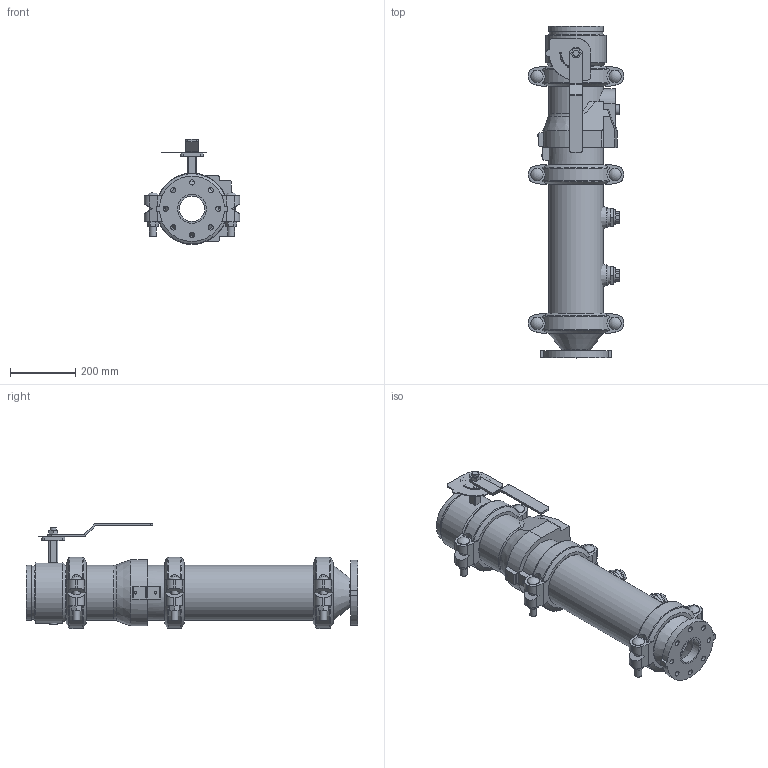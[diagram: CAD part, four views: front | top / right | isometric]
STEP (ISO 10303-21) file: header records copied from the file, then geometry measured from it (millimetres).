
FILE_DESCRIPTION(/* description */ ('VIC DVI PUMP DROP VERT S/390 (OGSxFLG)','CAx-IF Rec.Pracs.---Representation and Presentation of Product Manufacturing Information (PMI)---4.0---2014-10-13'),/* implementation_level */ '2;1');
FILE_NAME(/* name */ 'C:\Users\Vjadhav\AppData\Roaming\Autodesk\ApplicationPlugins\Back Up\Victaulic_IPS_Vertical DVI_PN10_Series 390 (OGSxFLG)\Victaulic_IPS_Vertical DVI_PN10_Series 390 (OGSxFLG)_06.0x03.0 (150x80).stp',/* time_stamp */ '2020-11-09T17:51:10+05:00',/* author */ ('Vjadhav'),/* organization */ ('Victaulic'),/* preprocessor_version */ 'ST-DEVELOPER v17.2',/* originating_system */ 'Autodesk Inventor 2019',/* authorisation */ '');
FILE_SCHEMA (('AP242_MANAGED_MODEL_BASED_3D_ENGINEERING_MIM_LF { 1 0 10303 442 1 1 4 }'));
Length unit declared in the file: inch
Products named in the file (8): 390-06.0x03.0; 741-03.0; 050-06.0x03.0; Pipe-06.0; 177N-06.0; 761-06.0; 716-06.0; 923-04.0x0.75
Assembly tree (10 placements, depth 2):
  390-06.0x03.0
    741-03.0
    050-06.0x03.0
    177N-06.0  x3
    Pipe-06.0
    761-06.0
    716-06.0
    923-04.0x0.75  x2
Bounding box: 292.61 x 1019.05 x 322.45 mm (x, y, z)
Volume: 10140083.7 mm3; surface area: 1773820.4 mm2
Topology: 10 solids, 11 shells, 611 faces, 1611 edges, 1076 vertices
Faces by surface type: plane 358, cylinder 208, cone 20, torus 17, sphere 6, bspline 2
Full cylindrical faces by diameter (mm): 4.826 x10, 7.62 x2, 8.636 x4, 16.002 x8, 19.05 x2, 21.209 x6, 22.86 x1, 26.67 x2, 30.48 x1, 37.694 x6, 45.974 x4, 55.118 x1, 55.626 x2, 77.927 x1, 84.938 x1, 88.9 x3, 154.051 x3, 155.575 x3, 157.15 x1, 163.957 x7, 168.275 x19, 185.42 x1
Entity records: 12549 total; most frequent: CARTESIAN_POINT 2398, DIRECTION 2085, ORIENTED_EDGE 1910, EDGE_CURVE 955, AXIS2_PLACEMENT_3D 785, VERTEX_POINT 644, LINE 515, VECTOR 515
